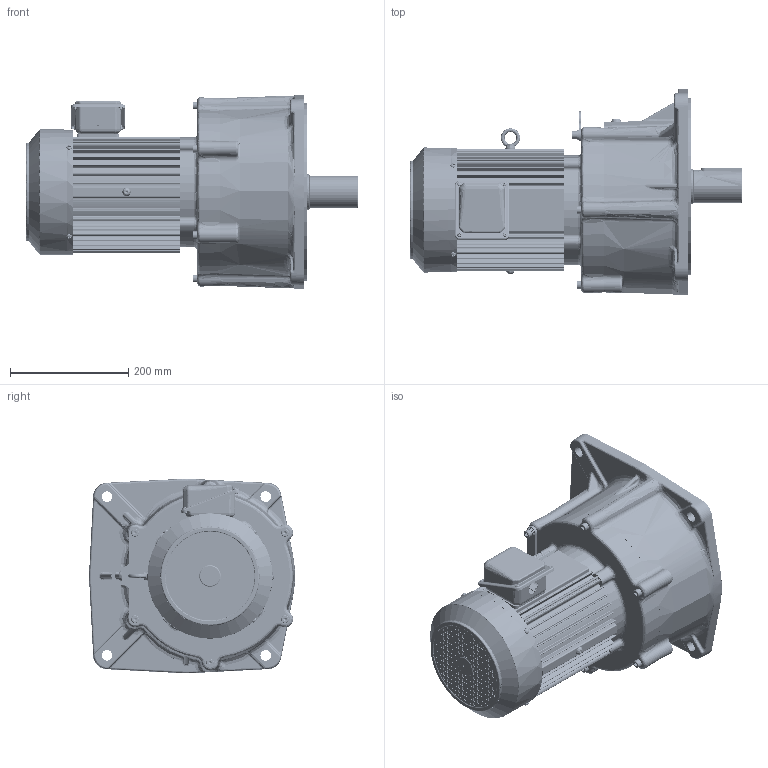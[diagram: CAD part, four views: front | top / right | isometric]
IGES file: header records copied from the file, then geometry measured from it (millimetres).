
Start section: SolidWorks IGES file using analytic representation for surfaces
Global section: file name: \\100.100.100.8\1_共有作業フォルダ\1-5_３Ｄデータ\solidworks\personal-folder\H.Nagayama\SGP1外形_075~370\P1(3D)_075~370\igs\TMF2-22-(30~80).IGS; native system: SolidWorks 2018; preprocessor: SolidWorks 2018; author: user; date: 210309.154841; units: millimetre
Bounding box: 562 x 349 x 330 mm (x, y, z)
Surface area: 1153599.4 mm2 (no closed solid volume)
Topology: 0 solids, 0 shells, 3583 faces, 39475 edges, 39364 vertices
Faces by surface type: bspline 1884, revolution 1699
